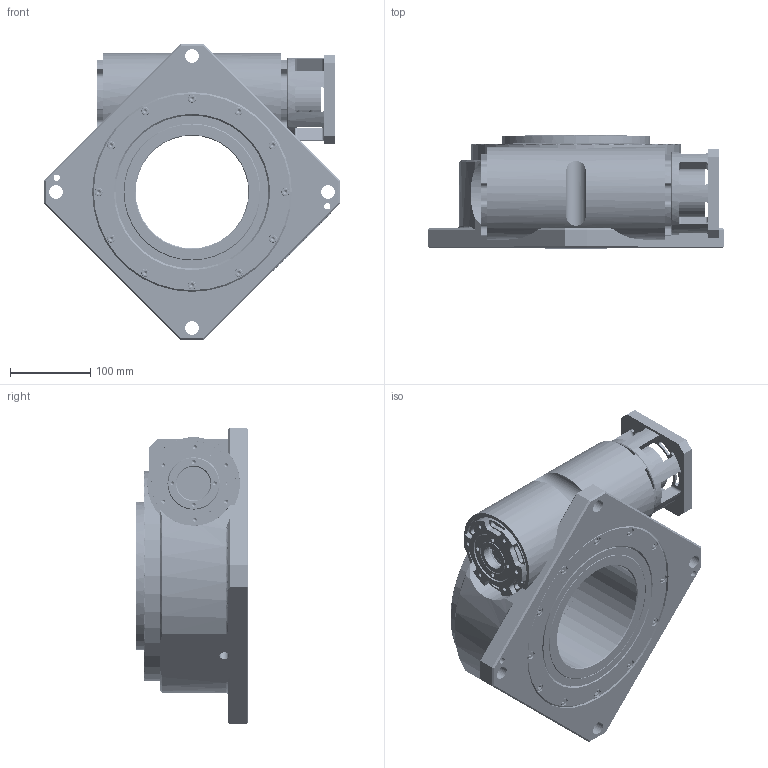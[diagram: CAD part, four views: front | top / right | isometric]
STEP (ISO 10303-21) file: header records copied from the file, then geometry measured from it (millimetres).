
FILE_DESCRIPTION (( 'STEP AP203' ), '1' );
FILE_NAME ('HTN115-20-22-80-100-M6.STEP', '2024-08-03T03:44:10', ( 'Windows User' ), ( 'P R C' ), 'SwSTEP 2.0', 'SolidWorks 2016', '' );
FILE_SCHEMA (( 'CONFIG_CONTROL_DESIGN' ));
Length unit declared in the file: millimetre
Products named in the file (1): HTN115-20-22-80-100-M6
Bounding box: 367.7 x 140 x 367.7 mm (x, y, z)
Volume: 6315664.6 mm3; surface area: 1112862 mm2
Topology: 144 solids, 146 shells, 4308 faces, 10903 edges, 6876 vertices
Faces by surface type: plane 1847, cylinder 1331, cone 689, bspline 429, torus 12
Entity records: 148385 total; most frequent: CARTESIAN_POINT 47211, ORIENTED_EDGE 21220, DIRECTION 20637, EDGE_CURVE 10610, AXIS2_PLACEMENT_3D 7874, VERTEX_POINT 6847, EDGE_LOOP 5017, VECTOR 4889
